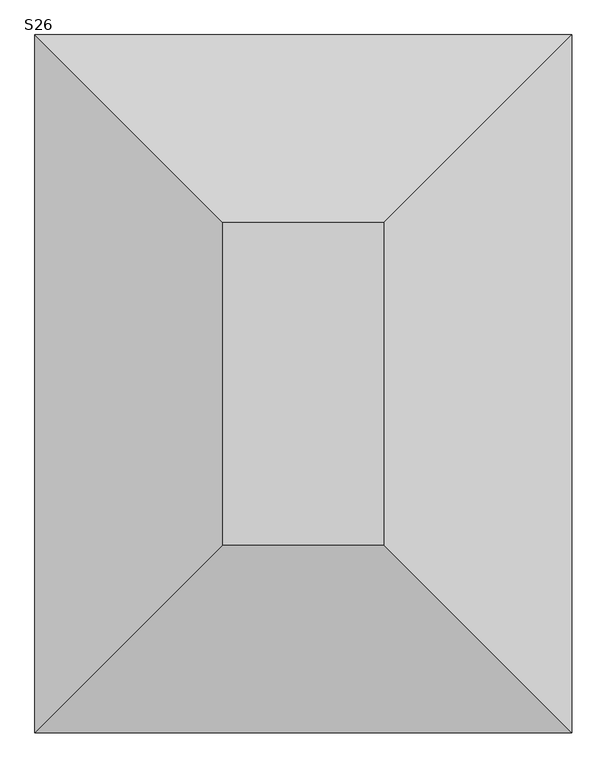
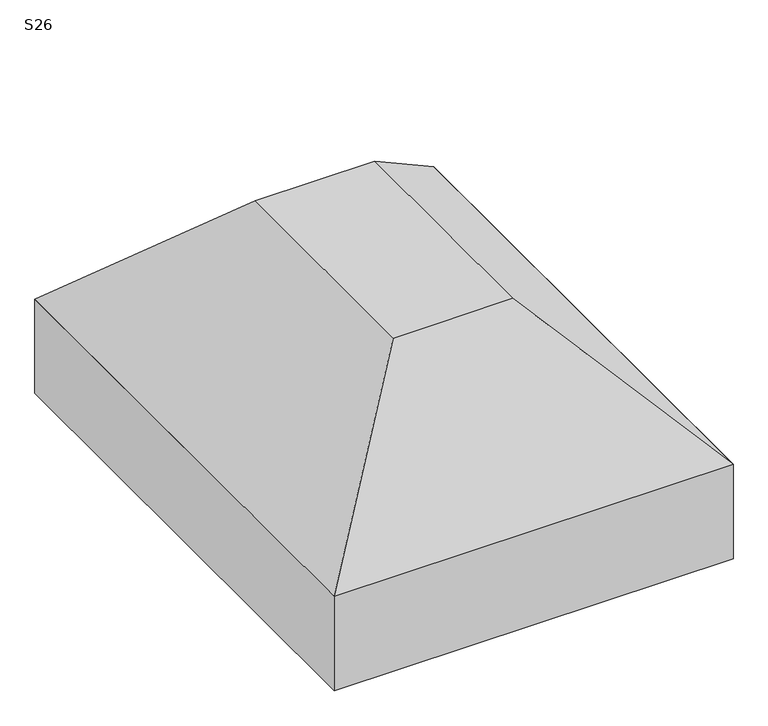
"""IFC4 building model written with IfcOpenShell, lengths in millimetres: fastener geometry, TQS - Sapata : S26."""

from ifc_helpers import new_model, si_unit, frame, origin, place, context, project, spatial, polyline, outline, extrude, faceted_brep, source, transform, mapped, element, save


def s26_9032f409(model_context):
    return source(origin(), model_context, "Body", "SolidModel", [
        faceted_brep([(-50.0, 100.0, 0.0), (-350.0, 100.0, 0.0), (-350.0, -500.0, 0.0), (-50.0, -500.0, 0.0), (300.0, 450.0, -350.0), (300.0, -850.0, -350.0), (-700.0, -850.0, -350.0), (-700.0, 450.0, -350.0)], [[[0, 1, 2, 3]], [[4, 5, 6, 7]], [[4, 7, 1, 0]], [[7, 6, 2, 1]], [[6, 5, 3, 2]], [[5, 4, 0, 3]]]),
        extrude(outline(polyline([(300.0, 450.0), (300.0, -850.0), (-700.0, -850.0), (-700.0, 450.0), (300.0, 450.0)])), frame((0.0, 0.0, -600.0), z_axis=(0.0, 0.0, 1.0), x_axis=(1.0, 0.0, 0.0)), (0.0, 0.0, 1.0), 250.0),
    ])


if __name__ == "__main__":
    model = new_model("IFC4")
    model_context = context("Model", 3, world=origin())
    ifc_project = project(units=[si_unit("LENGTHUNIT", "METRE", prefix="MILLI")], contexts=[model_context])
    site = spatial("IfcSite", under=ifc_project)
    building = spatial("IfcBuilding", under=site)
    placement = place(None, origin())
    s26_shape = s26_9032f409(model_context)
    element("IfcFastener", 1, ObjectType="TQS - Sapata : S26", at=placement, inside=building, context=model_context, shape_type="MappedRepresentation", body=[
        mapped(s26_shape, transform((0.0, 0.0, 0.0), x_axis=(1.0, 0.0, 0.0), y_axis=(0.0, 1.0, 0.0), z_axis=(0.0, 0.0, 1.0))),
    ])
    save(model, "model.ifc")
